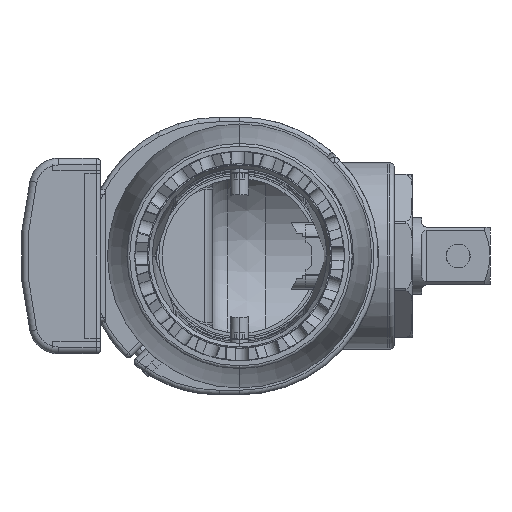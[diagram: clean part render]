
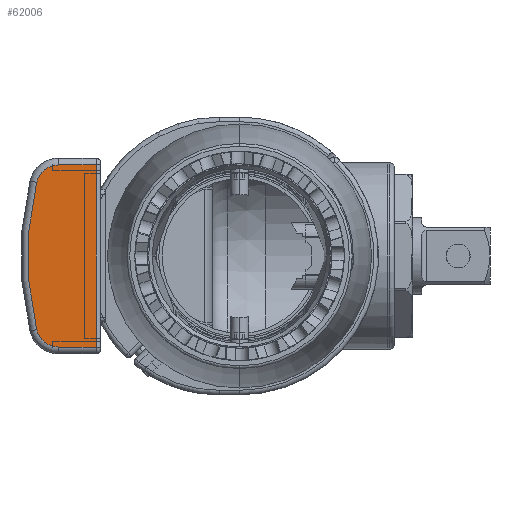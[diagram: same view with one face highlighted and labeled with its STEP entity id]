
A CAD part, left-side view. The second image highlights one B-rep face of the part: STEP entity #62006.
In plain terms, the highlighted planar face has unit normal (-1, 0, 0).
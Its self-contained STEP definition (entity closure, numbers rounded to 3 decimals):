
#1990 = CARTESIAN_POINT ( 'NONE',  ( -235.05, 44.561, -16.181 ) ) ;
#2033 = DIRECTION ( 'NONE',  ( 0., 0., -1. ) ) ;
#2034 = DIRECTION ( 'NONE',  ( -1., 0., 0. ) ) ;
#2035 = CARTESIAN_POINT ( 'NONE',  ( -235.05, -22., 0. ) ) ;
#2036 = AXIS2_PLACEMENT_3D ( 'NONE', #2035, #2034, #2033 ) ;
#2037 = CIRCLE ( 'NONE', #2036, 68.5 ) ;
#2086 = DIRECTION ( 'NONE',  ( 0., 0., -1. ) ) ;
#2087 = DIRECTION ( 'NONE',  ( -1., 0., 0. ) ) ;
#2088 = CARTESIAN_POINT ( 'NONE',  ( -235.05, 39.703, 15. ) ) ;
#2089 = AXIS2_PLACEMENT_3D ( 'NONE', #2088, #2087, #2086 ) ;
#2090 = CIRCLE ( 'NONE', #2089, 5. ) ;
#2091 = CARTESIAN_POINT ( 'NONE',  ( -235.05, 44.561, 16.181 ) ) ;
#2111 = CARTESIAN_POINT ( 'NONE',  ( -235.05, 39.703, 20. ) ) ;
#2169 = DIRECTION ( 'NONE',  ( -1., 0., 0. ) ) ;
#2170 = CARTESIAN_POINT ( 'NONE',  ( -235.05, 39.703, -15. ) ) ;
#2171 = AXIS2_PLACEMENT_3D ( 'NONE', #2170, #2169, #2224 ) ;
#2172 = CIRCLE ( 'NONE', #2171, 5. ) ;
#2174 = CARTESIAN_POINT ( 'NONE',  ( -235.05, 39.703, -20. ) ) ;
#2224 = DIRECTION ( 'NONE',  ( 0., 0., -1. ) ) ;
#6110 = ORIENTED_EDGE ( 'NONE', *, *, #26355, .T. ) ;
#6144 = ORIENTED_EDGE ( 'NONE', *, *, #26304, .T. ) ;
#8004 = DIRECTION ( 'NONE',  ( 0., 0., 1. ) ) ;
#8005 = VECTOR ( 'NONE', #8004, 1000. ) ;
#8006 = CARTESIAN_POINT ( 'NONE',  ( -235.05, 31.5, -21.5 ) ) ;
#8007 = LINE ( 'NONE', #8006, #8005 ) ;
#16892 = DIRECTION ( 'NONE',  ( 0., 1., 0. ) ) ;
#16893 = VECTOR ( 'NONE', #16892, 1000. ) ;
#16894 = CARTESIAN_POINT ( 'NONE',  ( -235.05, 30.5, 20. ) ) ;
#16895 = LINE ( 'NONE', #16894, #16893 ) ;
#17098 = DIRECTION ( 'NONE',  ( 0., 0., -1. ) ) ;
#17099 = DIRECTION ( 'NONE',  ( 1., 0., 0. ) ) ;
#17100 = CARTESIAN_POINT ( 'NONE',  ( -235.05, 30.5, -21.5 ) ) ;
#17101 = AXIS2_PLACEMENT_3D ( 'NONE', #17100, #17099, #17098 ) ;
#17104 = PLANE ( 'NONE',  #17101 ) ;
#17121 = FACE_OUTER_BOUND ( 'NONE', #61830, .T. ) ;
#17409 = LINE ( 'NONE', #17478, #17477 ) ;
#17476 = DIRECTION ( 'NONE',  ( 0., -1., 0. ) ) ;
#17477 = VECTOR ( 'NONE', #17476, 1000. ) ;
#17478 = CARTESIAN_POINT ( 'NONE',  ( -235.05, 30.5, -20. ) ) ;
#26298 = VERTEX_POINT ( 'NONE', #1990 ) ;
#26304 = EDGE_CURVE ( 'NONE', #26331, #26298, #2037, .T. ) ;
#26319 = VERTEX_POINT ( 'NONE', #2111 ) ;
#26331 = VERTEX_POINT ( 'NONE', #2091 ) ;
#26334 = EDGE_CURVE ( 'NONE', #26319, #26331, #2090, .T. ) ;
#26352 = VERTEX_POINT ( 'NONE', #2174 ) ;
#26355 = EDGE_CURVE ( 'NONE', #26298, #26352, #2172, .T. ) ;
#36603 = CARTESIAN_POINT ( 'NONE',  ( -235.05, 31.5, 20. ) ) ;
#46281 = VERTEX_POINT ( 'NONE', #36603 ) ;
#48195 = CARTESIAN_POINT ( 'NONE',  ( -235.05, 31.5, -20. ) ) ;
#55593 = VERTEX_POINT ( 'NONE', #48195 ) ;
#59686 = EDGE_CURVE ( 'NONE', #55593, #46281, #8007, .T. ) ;
#60915 = ORIENTED_EDGE ( 'NONE', *, *, #26334, .T. ) ;
#61779 = ORIENTED_EDGE ( 'NONE', *, *, #59686, .T. ) ;
#61804 = ORIENTED_EDGE ( 'NONE', *, *, #62062, .T. ) ;
#61830 = EDGE_LOOP ( 'NONE', ( #61804, #61779, #61960, #60915, #6144, #6110 ) ) ;
#61960 = ORIENTED_EDGE ( 'NONE', *, *, #61969, .T. ) ;
#61969 = EDGE_CURVE ( 'NONE', #46281, #26319, #16895, .T. ) ;
#62006 = ADVANCED_FACE ( 'NONE', ( #17121 ), #17104, .F. ) ;
#62062 = EDGE_CURVE ( 'NONE', #26352, #55593, #17409, .T. ) ;
